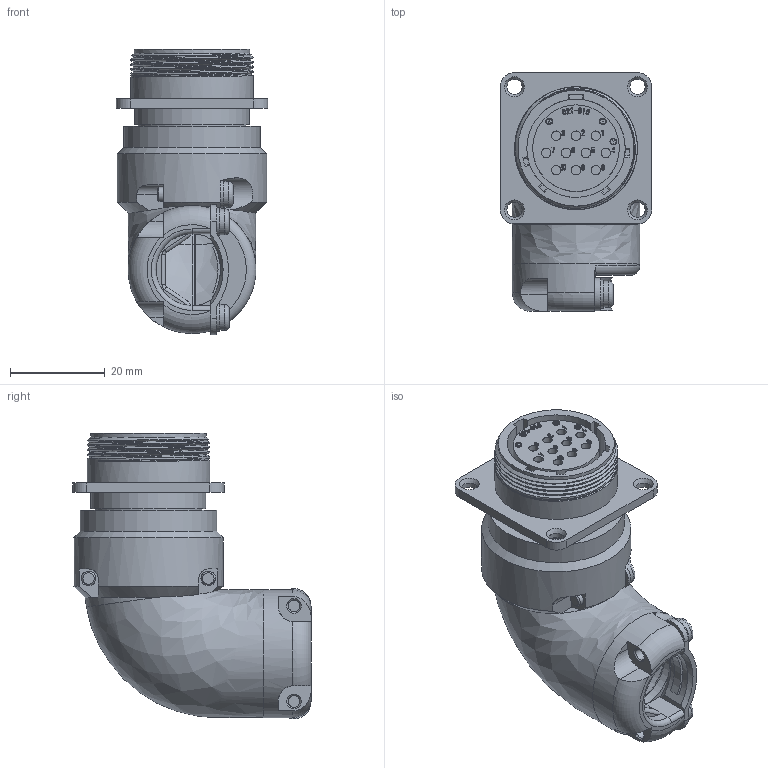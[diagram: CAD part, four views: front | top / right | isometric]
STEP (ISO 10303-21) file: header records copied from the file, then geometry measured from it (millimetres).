
FILE_DESCRIPTION (( 'STEP AP203' ), '1' );
FILE_NAME ('JMWL2110FM-D.STEP', '2021-07-14T02:13:00', ( '' ), ( '' ), 'SwSTEP 2.0', 'SolidWorks 2018', '' );
FILE_SCHEMA (( 'CONFIG_CONTROL_DESIGN' ));
Length unit declared in the file: millimetre
Products named in the file (1): JMWL2110FM-D
Bounding box: 32 x 50.4 x 60.33 mm (x, y, z)
Volume: 22749.9 mm3; surface area: 16879.4 mm2
Topology: 1 solids, 1 shells, 1061 faces, 2833 edges, 1859 vertices
Faces by surface type: plane 463, bspline 392, cylinder 156, cone 35, torus 15
Full cylindrical faces by diameter (mm): 1.2 x4, 1.4 x4, 1.7 x10, 2 x10, 2.4 x10, 2.5 x2, 3 x2, 3.2 x4, 5.5 x4, 15.2 x1, 18.1 x1, 18.3 x1, 20.1 x1, 20.8 x1, 22.7 x1, 22.8 x1, 24.3 x1, 24.5 x1, 25.96 x4, 26.2 x1, 27 x1, 28.8 x1, 31.6 x1
Entity records: 50357 total; most frequent: CARTESIAN_POINT 27310, ORIENTED_EDGE 5374, DIRECTION 3420, EDGE_CURVE 2687, VERTEX_POINT 1813, VECTOR 1378, LINE 1378, EDGE_LOOP 1246
